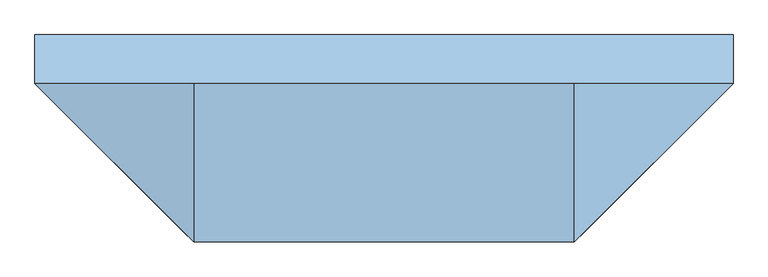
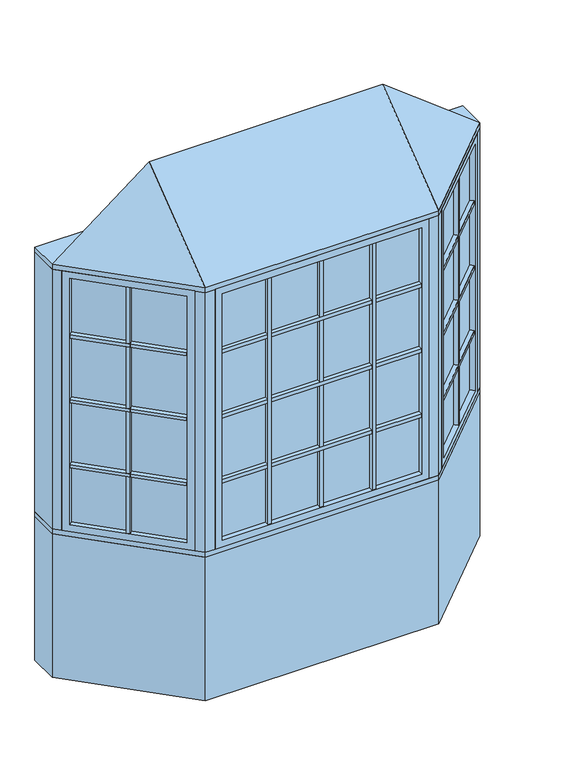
"""IFC4 building model written with IfcOpenShell, lengths in millimetres: window geometry, Pollard_Windows_Tudor Casement Bows and Bays : AML-BAY 45 AFR0514-12-600_GC."""

from ifc_helpers import new_model, si_unit, frame, origin, origin_with_axes, place, context, project, spatial, polyline, outline, extrude, faceted_brep, source, transform, mapped, element, save


def window_a97668ed(model_context):
    return source(origin(), model_context, "Body", "SolidModel", [
        extrude(outline(polyline([(653.0114193, -506.9608753), (637.4550701, -491.4045261), (1015.116171, -113.7434252), (1030.6725202, -129.2997743), (653.0114193, -506.9608753)])), frame((0.0, 0.0, 1490.998), z_axis=(0.0, 0.0, 1.0), x_axis=(1.0, 0.0, 0.0)), (0.0, 0.0, 1.0), 18.0),
        extrude(outline(polyline([(633.8629677, -487.8124236), (618.3066185, -472.2560744), (995.9677194, -94.5949735), (1011.5240686, -110.1513227), (633.8629677, -487.8124236)])), frame((0.0, 0.0, 1490.998), z_axis=(0.0, 0.0, 1.0), x_axis=(1.0, 0.0, 0.0)), (0.0, 0.0, 1.0), 18.0),
        extrude(outline(polyline([(653.0114193, -506.9608753), (637.4550701, -491.4045261), (1015.116171, -113.7434252), (1030.6725202, -129.2997743), (653.0114193, -506.9608753)])), frame((0.0, 0.0, 1140.998), z_axis=(0.0, 0.0, 1.0), x_axis=(1.0, 0.0, 0.0)), (0.0, 0.0, 1.0), 18.0),
        extrude(outline(polyline([(633.8629677, -487.8124236), (618.3066185, -472.2560744), (995.9677194, -94.5949735), (1011.5240686, -110.1513227), (633.8629677, -487.8124236)])), frame((0.0, 0.0, 1140.998), z_axis=(0.0, 0.0, 1.0), x_axis=(1.0, 0.0, 0.0)), (0.0, 0.0, 1.0), 18.0),
        extrude(outline(polyline([(653.0114193, -506.9608753), (637.4550701, -491.4045261), (1015.116171, -113.7434252), (1030.6725202, -129.2997743), (653.0114193, -506.9608753)])), frame((0.0, 0.0, 1490.998), z_axis=(0.0, 0.0, 1.0), x_axis=(1.0, 0.0, 0.0)), (0.0, 0.0, 1.0), 18.0),
        extrude(outline(polyline([(633.8629677, -487.8124236), (618.3066185, -472.2560744), (995.9677194, -94.5949735), (1011.5240686, -110.1513227), (633.8629677, -487.8124236)])), frame((0.0, 0.0, 1490.998), z_axis=(0.0, 0.0, 1.0), x_axis=(1.0, 0.0, 0.0)), (0.0, 0.0, 1.0), 18.0),
        extrude(outline(polyline([(653.0114193, -506.9608753), (637.4550701, -491.4045261), (1015.116171, -113.7434252), (1030.6725202, -129.2997743), (653.0114193, -506.9608753)])), frame((0.0, 0.0, 1490.998), z_axis=(0.0, 0.0, 1.0), x_axis=(1.0, 0.0, 0.0)), (0.0, 0.0, 1.0), 18.0),
        extrude(outline(polyline([(633.8629677, -487.8124236), (618.3066185, -472.2560744), (995.9677194, -94.5949735), (1011.5240686, -110.1513227), (633.8629677, -487.8124236)])), frame((0.0, 0.0, 1490.998), z_axis=(0.0, 0.0, 1.0), x_axis=(1.0, 0.0, 0.0)), (0.0, 0.0, 1.0), 18.0),
        extrude(outline(polyline([(653.0114193, -506.9608753), (637.4550701, -491.4045261), (1015.116171, -113.7434252), (1030.6725202, -129.2997743), (653.0114193, -506.9608753)])), frame((0.0, 0.0, 1840.998), z_axis=(0.0, 0.0, 1.0), x_axis=(1.0, 0.0, 0.0)), (0.0, 0.0, 1.0), 18.0),
        extrude(outline(polyline([(633.8629677, -487.8124236), (618.3066185, -472.2560744), (995.9677194, -94.5949735), (1011.5240686, -110.1513227), (633.8629677, -487.8124236)])), frame((0.0, 0.0, 1840.998), z_axis=(0.0, 0.0, 1.0), x_axis=(1.0, 0.0, 0.0)), (0.0, 0.0, 1.0), 18.0),
        extrude(outline(polyline([(832.6495816, -296.2100146), (848.2059308, -311.7663638), (835.4780087, -324.4942858), (819.9216595, -308.9379366), (832.6495816, -296.2100146)])), frame((0.0, 0.0, 835.8628), z_axis=(0.0, 0.0, 1.0), x_axis=(1.0, 0.0, 0.0)), (0.0, 0.0, 1.0), 1328.2704),
        extrude(outline(polyline([(829.0574791, -292.6179121), (816.3295571, -305.3458342), (800.7732079, -289.789485), (813.50113, -277.0615629), (829.0574791, -292.6179121)])), frame((0.0, 0.0, 835.8628), z_axis=(0.0, 0.0, 1.0), x_axis=(1.0, 0.0, 0.0)), (0.0, 0.0, 1.0), 1328.2704),
        extrude(outline(polyline([(1024.0964271, -104.763169), (628.474814, -500.3847822), (624.8827115, -496.7926797), (1020.5043247, -101.1710666), (1024.0964271, -104.763169)])), frame((0.0, 0.0, 823.1628), z_axis=(0.0, 0.0, 1.0), x_axis=(1.0, 0.0, 0.0)), (0.0, 0.0, 1.0), 1353.6704),
        faceted_brep([(1015.116171, -113.7434252, 835.8628), (1033.0766833, -131.7039374, 835.8628), (1033.0766833, -131.7039374, 2164.1332), (1015.116171, -113.7434252, 2164.1332), (1020.5043247, -101.1710666, 823.1628), (1024.0964271, -104.763169, 823.1628), (1024.0964271, -104.763169, 2176.8332), (1020.5043247, -101.1710666, 2176.8332), (993.5635563, -92.1908105, 835.8628), (1011.5240686, -110.1513227, 835.8628), (1011.5240686, -110.1513227, 2164.1332), (993.5635563, -92.1908105, 2164.1332), (1058.4369265, -106.3436941, 799.998), (1018.9237996, -66.8305672, 799.998), (1018.9237996, -66.8305672, 2199.998), (1058.4369265, -106.3436941, 2199.998), (655.4155823, -509.3650383, 2164.1332), (637.4550701, -491.4045261, 2164.1332), (628.474814, -500.3847822, 2176.8332), (624.8827115, -496.7926797, 2176.8332), (633.8629677, -487.8124236, 2164.1332), (615.9024554, -469.8519114, 2164.1332), (590.5422121, -495.2121547, 2199.998), (630.0553391, -534.7252816, 2199.998), (655.4155823, -509.3650383, 835.8628), (637.4550701, -491.4045261, 835.8628), (628.474814, -500.3847822, 823.1628), (624.8827115, -496.7926797, 823.1628), (633.8629677, -487.8124236, 835.8628), (615.9024554, -469.8519114, 835.8628), (590.5422121, -495.2121547, 799.998), (630.0553391, -534.7252816, 799.998)], [[[0, 1, 2, 3]], [[4, 5, 6, 7]], [[8, 9, 10, 11]], [[12, 13, 14, 15]], [[3, 2, 16, 17]], [[7, 6, 18, 19]], [[11, 10, 20, 21]], [[15, 14, 22, 23]], [[17, 16, 24, 25]], [[19, 18, 26, 27]], [[21, 20, 28, 29]], [[23, 22, 30, 31]], [[25, 24, 1, 0]], [[5, 26, 18, 6], [3, 17, 25, 0]], [[27, 26, 5, 4]], [[7, 19, 27, 4], [9, 28, 20, 10]], [[29, 28, 9, 8]], [[13, 30, 22, 14], [11, 21, 29, 8]], [[31, 30, 13, 12]], [[15, 23, 31, 12], [1, 24, 16, 2]]]),
        extrude(outline(polyline([(274.2677, -544.6806207), (274.2677, -566.6806207), (256.2677, -566.6806207), (256.2677, -544.6806207), (274.2677, -544.6806207)])), frame((0.0, 0.0, 835.8628), z_axis=(0.0, 0.0, 1.0), x_axis=(1.0, 0.0, 0.0)), (0.0, 0.0, 1.0), 1328.2704),
        extrude(outline(polyline([(274.2677, -539.6006207), (256.2677, -539.6006207), (256.2677, -517.6006207), (274.2677, -517.6006207), (274.2677, -539.6006207)])), frame((0.0, 0.0, 835.8628), z_axis=(0.0, 0.0, 1.0), x_axis=(1.0, 0.0, 0.0)), (0.0, 0.0, 1.0), 1328.2704),
        extrude(outline(polyline([(-256.2677, -544.6806207), (-256.2677, -566.6806207), (-274.2677, -566.6806207), (-274.2677, -544.6806207), (-256.2677, -544.6806207)])), frame((0.0, 0.0, 835.8628), z_axis=(0.0, 0.0, 1.0), x_axis=(1.0, 0.0, 0.0)), (0.0, 0.0, 1.0), 1328.2704),
        extrude(outline(polyline([(-256.2677, -539.6006207), (-274.2677, -539.6006207), (-274.2677, -517.6006207), (-256.2677, -517.6006207), (-256.2677, -539.6006207)])), frame((0.0, 0.0, 835.8628), z_axis=(0.0, 0.0, 1.0), x_axis=(1.0, 0.0, 0.0)), (0.0, 0.0, 1.0), 1328.2704),
        extrude(outline(polyline([(-508.8352, -566.6806207), (-508.8352, -544.6806207), (508.8352, -544.6806207), (508.8352, -566.6806207), (-508.8352, -566.6806207)])), frame((0.0, 0.0, 1140.998), z_axis=(0.0, 0.0, 1.0), x_axis=(1.0, 0.0, 0.0)), (0.0, 0.0, 1.0), 18.0),
        extrude(outline(polyline([(-508.8352, -539.6006207), (-508.8352, -517.6006207), (508.8352, -517.6006207), (508.8352, -539.6006207), (-508.8352, -539.6006207)])), frame((0.0, 0.0, 1140.998), z_axis=(0.0, 0.0, 1.0), x_axis=(1.0, 0.0, 0.0)), (0.0, 0.0, 1.0), 18.0),
        extrude(outline(polyline([(-508.8352, -566.6806207), (-508.8352, -544.6806207), (508.8352, -544.6806207), (508.8352, -566.6806207), (-508.8352, -566.6806207)])), frame((0.0, 0.0, 1490.998), z_axis=(0.0, 0.0, 1.0), x_axis=(1.0, 0.0, 0.0)), (0.0, 0.0, 1.0), 18.0),
        extrude(outline(polyline([(-508.8352, -539.6006207), (-508.8352, -517.6006207), (508.8352, -517.6006207), (508.8352, -539.6006207), (-508.8352, -539.6006207)])), frame((0.0, 0.0, 1490.998), z_axis=(0.0, 0.0, 1.0), x_axis=(1.0, 0.0, 0.0)), (0.0, 0.0, 1.0), 18.0),
        extrude(outline(polyline([(-508.8352, -566.6806207), (-508.8352, -544.6806207), (508.8352, -544.6806207), (508.8352, -566.6806207), (-508.8352, -566.6806207)])), frame((0.0, 0.0, 1490.998), z_axis=(0.0, 0.0, 1.0), x_axis=(1.0, 0.0, 0.0)), (0.0, 0.0, 1.0), 18.0),
        extrude(outline(polyline([(-508.8352, -539.6006207), (-508.8352, -517.6006207), (508.8352, -517.6006207), (508.8352, -539.6006207), (-508.8352, -539.6006207)])), frame((0.0, 0.0, 1490.998), z_axis=(0.0, 0.0, 1.0), x_axis=(1.0, 0.0, 0.0)), (0.0, 0.0, 1.0), 18.0),
        extrude(outline(polyline([(-508.8352, -566.6806207), (-508.8352, -544.6806207), (508.8352, -544.6806207), (508.8352, -566.6806207), (-508.8352, -566.6806207)])), frame((0.0, 0.0, 1490.998), z_axis=(0.0, 0.0, 1.0), x_axis=(1.0, 0.0, 0.0)), (0.0, 0.0, 1.0), 18.0),
        extrude(outline(polyline([(-508.8352, -539.6006207), (-508.8352, -517.6006207), (508.8352, -517.6006207), (508.8352, -539.6006207), (-508.8352, -539.6006207)])), frame((0.0, 0.0, 1490.998), z_axis=(0.0, 0.0, 1.0), x_axis=(1.0, 0.0, 0.0)), (0.0, 0.0, 1.0), 18.0),
        extrude(outline(polyline([(-1030.6725202, -129.2997743), (-1015.116171, -113.7434252), (-637.4550701, -491.4045261), (-653.0114193, -506.9608753), (-1030.6725202, -129.2997743)])), frame((0.0, 0.0, 1140.998), z_axis=(0.0, 0.0, 1.0), x_axis=(1.0, 0.0, 0.0)), (0.0, 0.0, 1.0), 18.0),
        extrude(outline(polyline([(-1011.5240686, -110.1513227), (-995.9677194, -94.5949735), (-618.3066185, -472.2560744), (-633.8629677, -487.8124236), (-1011.5240686, -110.1513227)])), frame((0.0, 0.0, 1140.998), z_axis=(0.0, 0.0, 1.0), x_axis=(1.0, 0.0, 0.0)), (0.0, 0.0, 1.0), 18.0),
        extrude(outline(polyline([(-1030.6725202, -129.2997743), (-1015.116171, -113.7434252), (-637.4550701, -491.4045261), (-653.0114193, -506.9608753), (-1030.6725202, -129.2997743)])), frame((0.0, 0.0, 1490.998), z_axis=(0.0, 0.0, 1.0), x_axis=(1.0, 0.0, 0.0)), (0.0, 0.0, 1.0), 18.0),
        extrude(outline(polyline([(-1011.5240686, -110.1513227), (-995.9677194, -94.5949735), (-618.3066185, -472.2560744), (-633.8629677, -487.8124236), (-1011.5240686, -110.1513227)])), frame((0.0, 0.0, 1490.998), z_axis=(0.0, 0.0, 1.0), x_axis=(1.0, 0.0, 0.0)), (0.0, 0.0, 1.0), 18.0),
        extrude(outline(polyline([(-1030.6725202, -129.2997743), (-1015.116171, -113.7434252), (-637.4550701, -491.4045261), (-653.0114193, -506.9608753), (-1030.6725202, -129.2997743)])), frame((0.0, 0.0, 1490.998), z_axis=(0.0, 0.0, 1.0), x_axis=(1.0, 0.0, 0.0)), (0.0, 0.0, 1.0), 18.0),
        extrude(outline(polyline([(-1011.5240686, -110.1513227), (-995.9677194, -94.5949735), (-618.3066185, -472.2560744), (-633.8629677, -487.8124236), (-1011.5240686, -110.1513227)])), frame((0.0, 0.0, 1490.998), z_axis=(0.0, 0.0, 1.0), x_axis=(1.0, 0.0, 0.0)), (0.0, 0.0, 1.0), 18.0),
        extrude(outline(polyline([(-1030.6725202, -129.2997743), (-1015.116171, -113.7434252), (-637.4550701, -491.4045261), (-653.0114193, -506.9608753), (-1030.6725202, -129.2997743)])), frame((0.0, 0.0, 1490.998), z_axis=(0.0, 0.0, 1.0), x_axis=(1.0, 0.0, 0.0)), (0.0, 0.0, 1.0), 18.0),
        extrude(outline(polyline([(-1011.5240686, -110.1513227), (-995.9677194, -94.5949735), (-618.3066185, -472.2560744), (-633.8629677, -487.8124236), (-1011.5240686, -110.1513227)])), frame((0.0, 0.0, 1490.998), z_axis=(0.0, 0.0, 1.0), x_axis=(1.0, 0.0, 0.0)), (0.0, 0.0, 1.0), 18.0),
        extrude(outline(polyline([(-1030.6725202, -129.2997743), (-1015.116171, -113.7434252), (-637.4550701, -491.4045261), (-653.0114193, -506.9608753), (-1030.6725202, -129.2997743)])), frame((0.0, 0.0, 1840.998), z_axis=(0.0, 0.0, 1.0), x_axis=(1.0, 0.0, 0.0)), (0.0, 0.0, 1.0), 18.0),
        extrude(outline(polyline([(-1011.5240686, -110.1513227), (-995.9677194, -94.5949735), (-618.3066185, -472.2560744), (-633.8629677, -487.8124236), (-1011.5240686, -110.1513227)])), frame((0.0, 0.0, 1840.998), z_axis=(0.0, 0.0, 1.0), x_axis=(1.0, 0.0, 0.0)), (0.0, 0.0, 1.0), 18.0),
        extrude(outline(polyline([(-508.8352, -566.6806207), (-508.8352, -544.6806207), (508.8352, -544.6806207), (508.8352, -566.6806207), (-508.8352, -566.6806207)])), frame((0.0, 0.0, 1840.998), z_axis=(0.0, 0.0, 1.0), x_axis=(1.0, 0.0, 0.0)), (0.0, 0.0, 1.0), 18.0),
        extrude(outline(polyline([(-508.8352, -539.6006207), (-508.8352, -517.6006207), (508.8352, -517.6006207), (508.8352, -539.6006207), (-508.8352, -539.6006207)])), frame((0.0, 0.0, 1840.998), z_axis=(0.0, 0.0, 1.0), x_axis=(1.0, 0.0, 0.0)), (0.0, 0.0, 1.0), 18.0),
        extrude(outline(polyline([(-819.9216595, -308.9379366), (-835.4780087, -324.4942858), (-848.2059308, -311.7663638), (-832.6495816, -296.2100146), (-819.9216595, -308.9379366)])), frame((0.0, 0.0, 835.8628), z_axis=(0.0, 0.0, 1.0), x_axis=(1.0, 0.0, 0.0)), (0.0, 0.0, 1.0), 1328.2704),
        extrude(outline(polyline([(-816.3295571, -305.3458342), (-829.0574791, -292.6179121), (-813.50113, -277.0615629), (-800.7732079, -289.789485), (-816.3295571, -305.3458342)])), frame((0.0, 0.0, 835.8628), z_axis=(0.0, 0.0, 1.0), x_axis=(1.0, 0.0, 0.0)), (0.0, 0.0, 1.0), 1328.2704),
        extrude(outline(polyline([(9.0, -544.6806207), (9.0, -566.6806207), (-9.0, -566.6806207), (-9.0, -544.6806207), (9.0, -544.6806207)])), frame((0.0, 0.0, 835.8628), z_axis=(0.0, 0.0, 1.0), x_axis=(1.0, 0.0, 0.0)), (0.0, 0.0, 1.0), 1328.2704),
        extrude(outline(polyline([(9.0, -539.6006207), (-9.0, -539.6006207), (-9.0, -517.6006207), (9.0, -517.6006207), (9.0, -539.6006207)])), frame((0.0, 0.0, 835.8628), z_axis=(0.0, 0.0, 1.0), x_axis=(1.0, 0.0, 0.0)), (0.0, 0.0, 1.0), 1328.2704),
        extrude(outline(polyline([(-628.474814, -500.3847822), (-1024.0964271, -104.763169), (-1020.5043247, -101.1710666), (-624.8827115, -496.7926797), (-628.474814, -500.3847822)])), frame((0.0, 0.0, 823.1628), z_axis=(0.0, 0.0, 1.0), x_axis=(1.0, 0.0, 0.0)), (0.0, 0.0, 1.0), 1353.6704),
        faceted_brep([(-633.8629677, -487.8124236, 2164.1332), (-615.9024554, -469.8519114, 2164.1332), (-615.9024554, -469.8519114, 835.8628), (-633.8629677, -487.8124236, 835.8628), (-628.474814, -500.3847822, 2176.8332), (-624.8827115, -496.7926797, 2176.8332), (-624.8827115, -496.7926797, 823.1628), (-628.474814, -500.3847822, 823.1628), (-655.4155823, -509.3650383, 2164.1332), (-637.4550701, -491.4045261, 2164.1332), (-637.4550701, -491.4045261, 835.8628), (-655.4155823, -509.3650383, 835.8628), (-590.5422121, -495.2121547, 2199.998), (-630.0553391, -534.7252816, 2199.998), (-630.0553391, -534.7252816, 799.998), (-590.5422121, -495.2121547, 799.998), (-993.5635563, -92.1908105, 835.8628), (-1011.5240686, -110.1513227, 835.8628), (-1020.5043247, -101.1710666, 823.1628), (-1024.0964271, -104.763169, 823.1628), (-1015.116171, -113.7434252, 835.8628), (-1033.0766833, -131.7039374, 835.8628), (-1058.4369265, -106.3436941, 799.998), (-1018.9237996, -66.8305672, 799.998), (-993.5635563, -92.1908105, 2164.1332), (-1011.5240686, -110.1513227, 2164.1332), (-1020.5043247, -101.1710666, 2176.8332), (-1024.0964271, -104.763169, 2176.8332), (-1015.116171, -113.7434252, 2164.1332), (-1033.0766833, -131.7039374, 2164.1332), (-1058.4369265, -106.3436941, 2199.998), (-1018.9237996, -66.8305672, 2199.998)], [[[0, 1, 2, 3]], [[4, 5, 6, 7]], [[8, 9, 10, 11]], [[12, 13, 14, 15]], [[3, 2, 16, 17]], [[7, 6, 18, 19]], [[11, 10, 20, 21]], [[15, 14, 22, 23]], [[17, 16, 24, 25]], [[19, 18, 26, 27]], [[21, 20, 28, 29]], [[23, 22, 30, 31]], [[15, 23, 31, 12], [1, 24, 16, 2]], [[25, 24, 1, 0]], [[5, 26, 18, 6], [3, 17, 25, 0]], [[27, 26, 5, 4]], [[7, 19, 27, 4], [9, 28, 20, 10]], [[29, 28, 9, 8]], [[13, 30, 22, 14], [11, 21, 29, 8]], [[31, 30, 13, 12]]]),
        extrude(outline(polyline([(521.5352, -544.6806207), (-521.5352, -544.6806207), (-521.5352, -539.6006207), (521.5352, -539.6006207), (521.5352, -544.6806207)])), frame((0.0, 0.0, 823.1628), z_axis=(0.0, 0.0, 1.0), x_axis=(1.0, 0.0, 0.0)), (0.0, 0.0, 1.0), 1353.6704),
        faceted_brep([(508.8352, -544.6806207, 835.8628), (508.8352, -570.0806207, 835.8628), (508.8352, -570.0806207, 2164.1332), (508.8352, -544.6806207, 2164.1332), (521.5352, -539.6006207, 823.1628), (521.5352, -544.6806207, 823.1628), (521.5352, -544.6806207, 2176.8332), (521.5352, -539.6006207, 2176.8332), (508.8352, -514.2006207, 835.8628), (508.8352, -539.6006207, 835.8628), (508.8352, -539.6006207, 2164.1332), (508.8352, -514.2006207, 2164.1332), (544.7, -570.0806207, 799.998), (544.7, -514.2006207, 799.998), (544.7, -514.2006207, 2199.998), (544.7, -570.0806207, 2199.998), (-508.8352, -570.0806207, 2164.1332), (-508.8352, -544.6806207, 2164.1332), (-521.5352, -544.6806207, 2176.8332), (-521.5352, -539.6006207, 2176.8332), (-508.8352, -539.6006207, 2164.1332), (-508.8352, -514.2006207, 2164.1332), (-544.7, -514.2006207, 2199.998), (-544.7, -570.0806207, 2199.998), (-508.8352, -570.0806207, 835.8628), (-508.8352, -544.6806207, 835.8628), (-521.5352, -544.6806207, 823.1628), (-521.5352, -539.6006207, 823.1628), (-508.8352, -539.6006207, 835.8628), (-508.8352, -514.2006207, 835.8628), (-544.7, -514.2006207, 799.998), (-544.7, -570.0806207, 799.998)], [[[0, 1, 2, 3]], [[4, 5, 6, 7]], [[8, 9, 10, 11]], [[12, 13, 14, 15]], [[3, 2, 16, 17]], [[7, 6, 18, 19]], [[11, 10, 20, 21]], [[15, 14, 22, 23]], [[17, 16, 24, 25]], [[19, 18, 26, 27]], [[21, 20, 28, 29]], [[23, 22, 30, 31]], [[15, 23, 31, 12], [1, 24, 16, 2]], [[25, 24, 1, 0]], [[5, 26, 18, 6], [3, 17, 25, 0]], [[27, 26, 5, 4]], [[7, 19, 27, 4], [9, 28, 20, 10]], [[29, 28, 9, 8]], [[13, 30, 22, 14], [11, 21, 29, 8]], [[31, 30, 13, 12]]]),
        faceted_brep([(1090.0, -74.7806207, 2225.398), (594.7, -570.0806207, 2225.398), (-594.7, -570.0806207, 2225.398), (-1090.0, -74.7806207, 2225.398), (-594.7, -74.7806207, 2606.398), (594.7, -74.7806207, 2606.398)], [[[0, 1, 2, 3]], [[3, 2, 4]], [[2, 1, 5, 4]], [[1, 0, 5]], [[0, 3, 4, 5]]]),
        extrude(outline(polyline([(-1090.0, 77.6193793), (1090.0, 77.6193793), (1090.0, -74.7806207), (594.7, -570.0806207), (-594.7, -570.0806207), (-1090.0, -74.7806207), (-1090.0, 77.6193793)])), frame((0.0, 0.0, 2199.998), z_axis=(0.0, 0.0, 1.0), x_axis=(1.0, 0.0, 0.0)), (0.0, 0.0, 1.0), 25.4),
        extrude(outline(polyline([(-1090.0, -74.7806207), (-1090.0, 77.6193793), (-1026.8738531, 77.6193793), (-1026.8738531, -74.7806207), (-1058.4369265, -106.3436941), (-1090.0, -74.7806207)])), frame((0.0, 0.0, 799.998), z_axis=(0.0, 0.0, 1.0), x_axis=(1.0, 0.0, 0.0)), (0.0, 0.0, 1.0), 1400.0),
        extrude(outline(polyline([(1090.0, 77.6193793), (1090.0, -74.7806207), (1058.4369265, -106.3436941), (1026.8738531, -74.7806207), (1026.8738531, 77.6193793), (1090.0, 77.6193793)])), frame((0.0, 0.0, 799.998), z_axis=(0.0, 0.0, 1.0), x_axis=(1.0, 0.0, 0.0)), (0.0, 0.0, 1.0), 1400.0),
        extrude(outline(polyline([(594.7, -570.0806207), (544.7, -570.0806207), (544.7, -520.0806207), (573.9893219, -520.0806207), (594.7, -499.3699425), (630.0553391, -534.7252816), (594.7, -570.0806207)])), frame((0.0, 0.0, 799.998), z_axis=(0.0, 0.0, 1.0), x_axis=(1.0, 0.0, 0.0)), (0.0, 0.0, 1.0), 1400.0),
        extrude(outline(polyline([(-594.7, -570.0806207), (-630.0553391, -534.7252816), (-594.7, -499.3699425), (-573.9893219, -520.0806207), (-544.7, -520.0806207), (-544.7, -570.0806207), (-594.7, -570.0806207)])), frame((0.0, 0.0, 799.998), z_axis=(0.0, 0.0, 1.0), x_axis=(1.0, 0.0, 0.0)), (0.0, 0.0, 1.0), 1400.0),
        extrude(outline(polyline([(-594.7, -570.0806207), (-1090.0, -74.7806207), (-1090.0, 77.6193793), (-1026.8738531, 77.6193793), (-531.5738531, -417.6806207), (531.5738531, -417.6806207), (1026.8738531, 77.6193793), (1090.0, 77.6193793), (1090.0, -74.7806207), (594.7, -570.0806207), (-594.7, -570.0806207)])), frame((0.0, 0.0, 774.598), z_axis=(0.0, 0.0, 1.0), x_axis=(1.0, 0.0, 0.0)), (0.0, 0.0, 1.0), 25.4),
        extrude(outline(polyline([(-1090.0, -74.7806207), (-1090.0, 77.6193793), (-1026.8738531, 77.6193793), (-531.5738531, -417.6806207), (531.5738531, -417.6806207), (1026.8738531, 77.6193793), (1090.0, 77.6193793), (1090.0, -74.7806207), (594.7, -570.0806207), (-594.7, -570.0806207), (-1090.0, -74.7806207)])), origin_with_axes(), (0.0, 0.0, 1.0), 774.598),
    ])


if __name__ == "__main__":
    model = new_model("IFC4")
    model_context = context("Model", 3, world=origin())
    ifc_project = project(units=[si_unit("LENGTHUNIT", "METRE", prefix="MILLI")], contexts=[model_context])
    site = spatial("IfcSite", under=ifc_project)
    building = spatial("IfcBuilding", under=site)
    placement = place(None, origin())
    window_shape = window_a97668ed(model_context)
    element("IfcWindow", 1, ObjectType="Pollard_Windows_Tudor Casement Bows and Bays : AML-BAY 45 AFR0514-12-600_GC", at=placement, inside=building, context=model_context, shape_type="MappedRepresentation", body=[
        mapped(window_shape, transform((0.0, 0.0, 0.0), x_axis=(1.0, 0.0, 0.0), y_axis=(0.0, 1.0, 0.0), z_axis=(0.0, 0.0, 1.0))),
    ])
    save(model, "model.ifc")
